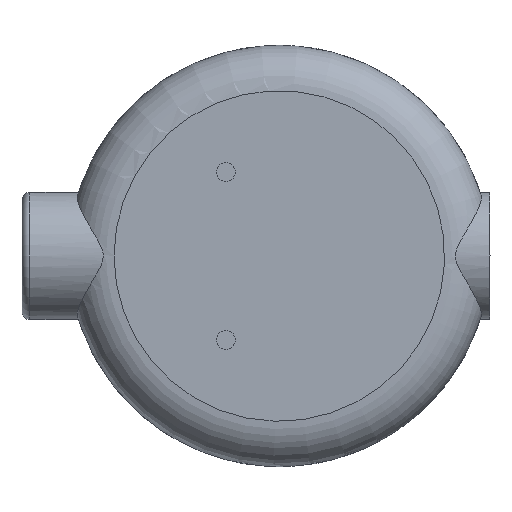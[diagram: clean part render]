
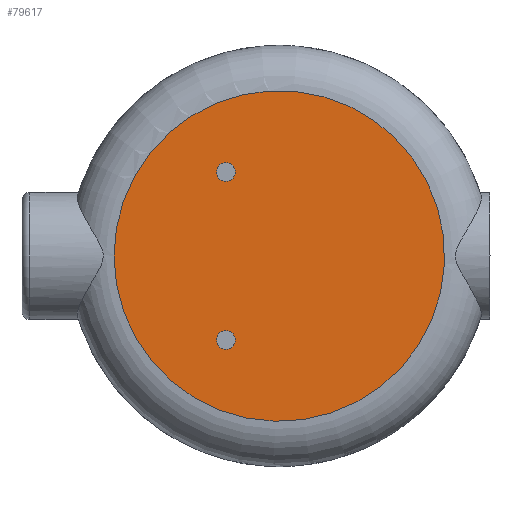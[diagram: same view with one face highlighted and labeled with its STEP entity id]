
A CAD part, front view. The second image highlights one B-rep face of the part: STEP entity #79617.
In plain terms, the highlighted planar face has unit normal (0, -1, 0).
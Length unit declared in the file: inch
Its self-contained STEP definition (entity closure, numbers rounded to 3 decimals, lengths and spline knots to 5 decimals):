
#79214=CARTESIAN_POINT('',(0.46108,-0.21253,-0.6475));
#79215=VERTEX_POINT('',#79214);
#79216=CARTESIAN_POINT('',(0.38858,-0.21253,-0.6475));
#79217=DIRECTION('',(0.0,1.0,0.0));
#79218=DIRECTION('',(-1.0,0.0,0.0));
#79219=AXIS2_PLACEMENT_3D('',#79216,#79217,#79218);
#79220=CIRCLE('',#79219,0.0725);
#79221=EDGE_CURVE('',#79215,#79215,#79220,.T.);
#79251=CARTESIAN_POINT('',(0.46108,-0.21253,0.6475));
#79252=VERTEX_POINT('',#79251);
#79253=CARTESIAN_POINT('',(0.38858,-0.21253,0.6475));
#79254=DIRECTION('',(0.0,1.0,0.0));
#79255=DIRECTION('',(-1.0,0.0,0.0));
#79256=AXIS2_PLACEMENT_3D('',#79253,#79254,#79255);
#79257=CIRCLE('',#79256,0.0725);
#79258=EDGE_CURVE('',#79252,#79252,#79257,.T.);
#79537=CARTESIAN_POINT('',(-0.47392,-0.21253,0.0));
#79538=VERTEX_POINT('',#79537);
#79539=CARTESIAN_POINT('',(0.80108,-0.21253,0.0));
#79540=DIRECTION('',(0.0,1.0,0.0));
#79541=DIRECTION('',(1.0,0.0,0.0));
#79542=AXIS2_PLACEMENT_3D('',#79539,#79540,#79541);
#79543=CIRCLE('',#79542,1.275);
#79544=EDGE_CURVE('',#79538,#79538,#79543,.T.);
#79603=CARTESIAN_POINT('',(-0.01142,-0.21253,0.0));
#79604=DIRECTION('',(0.0,-1.0,0.0));
#79605=DIRECTION('',(0.0,0.0,-1.0));
#79606=AXIS2_PLACEMENT_3D('',#79603,#79604,#79605);
#79607=PLANE('',#79606);
#79608=ORIENTED_EDGE('',*,*,#79544,.F.);
#79609=EDGE_LOOP('',(#79608));
#79610=FACE_OUTER_BOUND('',#79609,.T.);
#79611=ORIENTED_EDGE('',*,*,#79221,.T.);
#79612=EDGE_LOOP('',(#79611));
#79613=FACE_BOUND('',#79612,.T.);
#79614=ORIENTED_EDGE('',*,*,#79258,.T.);
#79615=EDGE_LOOP('',(#79614));
#79616=FACE_BOUND('',#79615,.T.);
#79617=ADVANCED_FACE('',(#79610,#79613,#79616),#79607,.T.);
